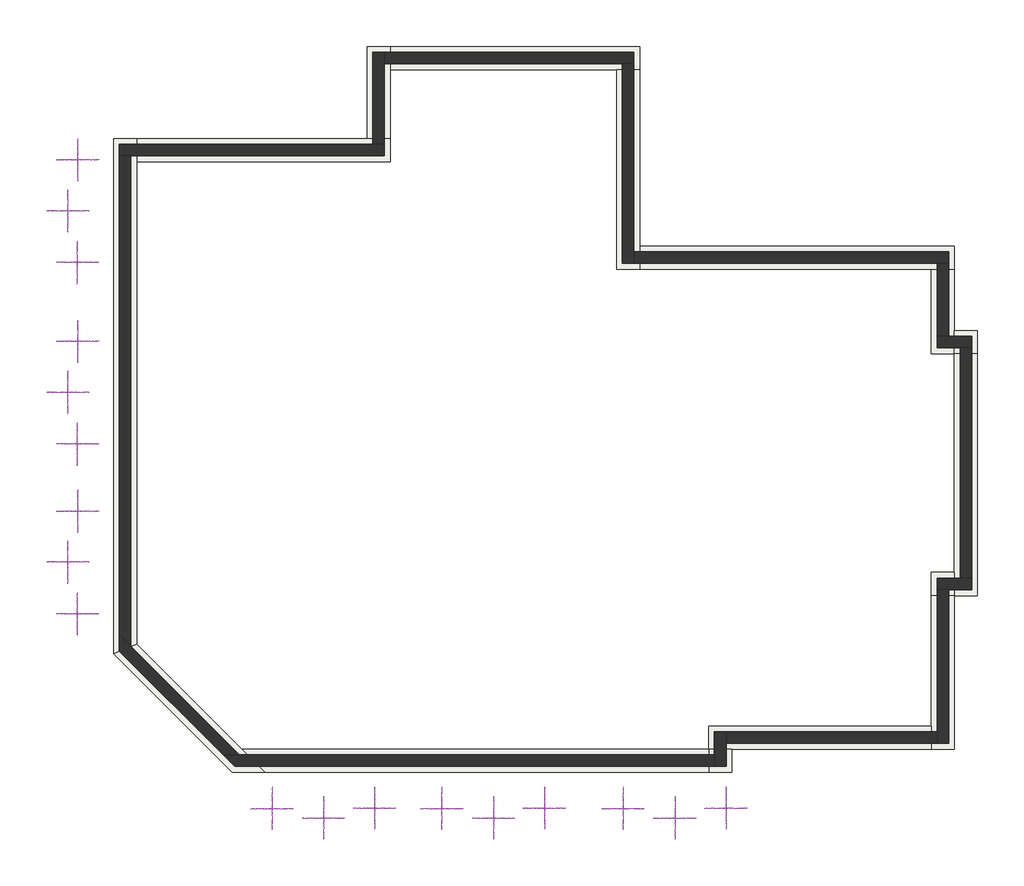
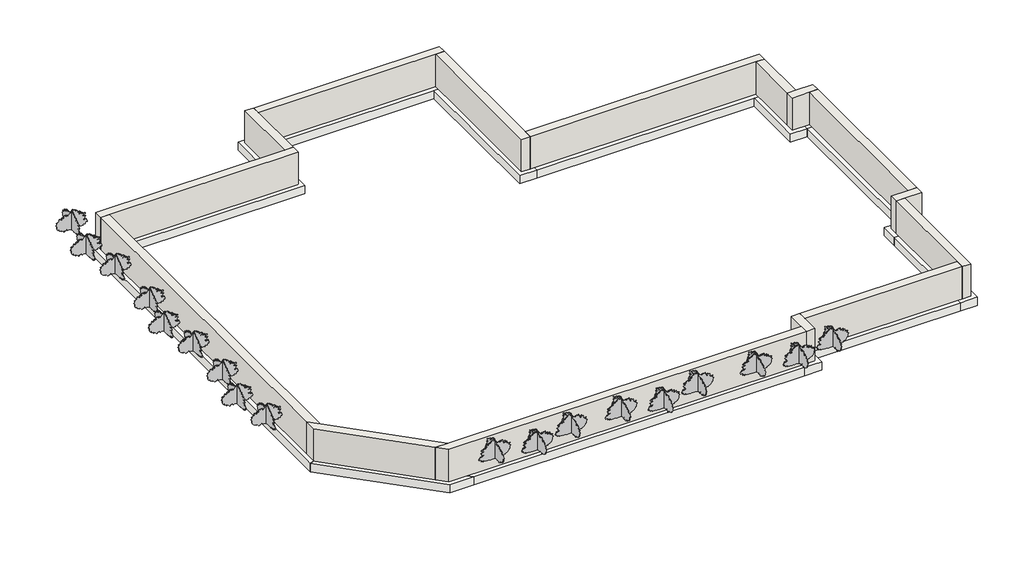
# One storey: 18 geographic elements, 15 footings, 15 walls.
"""IFC4 building model written with IfcOpenShell, lengths in millimetres."""

import ifcopenshell
import ifcopenshell.guid

model = None  # the IFC model being written
_history = None  # IfcOwnerHistory: only IFC2X3 demands one
_inside = {}  # id of a spatial element -> (the spatial element, [elements in it])
_under = {}  # id of a project, library or spatial element -> (it, [spatial elements below it])
_declared = {}  # id of a project -> (the project, [libraries it declares])
_typed = {}  # id of a type object -> (the type object, [elements of that type])
_made_of = {}  # id of a material, layer set ... -> (it, [elements and type objects made of it])


def new_model(schema):
    """Start an empty IFC model of exactly this schema.

    Asked for "IFC4X3", IfcOpenShell would pick the latest addendum, in which some entities
    have other attributes; the version numbers below select the first issue.
    IFC2X3 requires an IfcOwnerHistory on every rooted entity: one is made here for all.
    """
    global model, _history
    if schema == "IFC4X3":
        model = ifcopenshell.file(schema_version=(4, 3, 0, 0))
    else:
        model = ifcopenshell.file(schema=schema)
    _inside.clear()
    _under.clear()
    _declared.clear()
    _typed.clear()
    _made_of.clear()
    _history = None
    if model.schema == "IFC2X3":
        org = make("IfcOrganization", Name="unknown")
        user = make(
            "IfcPersonAndOrganization",
            ThePerson=make("IfcPerson", FamilyName="unknown"),
            TheOrganization=org,
        )
        app = make(
            "IfcApplication",
            ApplicationDeveloper=org,
            Version="unknown",
            ApplicationFullName="unknown",
            ApplicationIdentifier="unknown",
        )
        _history = make(
            "IfcOwnerHistory",
            OwningUser=user,
            OwningApplication=app,
            ChangeAction="ADDED",
            CreationDate=0,
        )
    return model


def make(cls, **values):
    """One entity of the class cls with the attributes given. An attribute that is None is left unset."""
    return model.create_entity(
        cls, **{name: value for name, value in values.items() if value is not None}
    )


def rooted(cls, **values):
    """An entity with a GlobalId (a new one), such as an element, a storey or a relation."""
    return make(cls, GlobalId=ifcopenshell.guid.new(), OwnerHistory=_history, **values)


def si_unit(unit_type, name, prefix=None):
    """IfcSIUnit, for example si_unit("LENGTHUNIT", "METRE", prefix="MILLI")."""
    return make("IfcSIUnit", UnitType=unit_type, Prefix=prefix, Name=name)


def assignment(units):
    """IfcUnitAssignment: the units of a project."""
    return None if units is None else make("IfcUnitAssignment", Units=units)


def point(xyz):
    """IfcCartesianPoint."""
    return None if xyz is None else make("IfcCartesianPoint", Coordinates=xyz)


def direction(xyz):
    """IfcDirection."""
    return None if xyz is None else make("IfcDirection", DirectionRatios=xyz)


def frame(location, z_axis=None, x_axis=None):
    """IfcAxis2Placement3D, a coordinate frame: its origin and axes. An axis left out is left unset."""
    return make(
        "IfcAxis2Placement3D",
        Location=point(location),
        Axis=direction(z_axis),
        RefDirection=direction(x_axis),
    )


def origin():
    """The frame at (0, 0, 0) with its axes left unset."""
    return frame((0.0, 0.0, 0.0))


def place(relative_to, where):
    """IfcLocalPlacement: puts the frame where relative to a parent placement (None: the world)."""
    return make(
        "IfcLocalPlacement", PlacementRelTo=relative_to, RelativePlacement=where
    )


def context(
    kind, dimensions, precision=None, world=None, true_north=None, identifier=None
):
    """IfcGeometricRepresentationContext, for example the 3D "Model" context."""
    return make(
        "IfcGeometricRepresentationContext",
        ContextIdentifier=identifier,
        ContextType=kind,
        CoordinateSpaceDimension=dimensions,
        Precision=precision,
        WorldCoordinateSystem=world,
        TrueNorth=true_north,
    )


def project(units=None, contexts=None):
    """IfcProject with its units and contexts."""
    return rooted(
        "IfcProject",
        Name="project",
        RepresentationContexts=contexts,
        UnitsInContext=assignment(units),
    )


def spatial(cls, under=None, at=None, **own):
    """A site, building, storey or space (cls), placed at a placement, below another one or the project."""
    s = rooted(cls, ObjectPlacement=at, **own)
    if under is not None:
        _under.setdefault(under.id(), (under, []))[1].append(s)
    return s


def polyline(points):
    """IfcPolyline through the points."""
    return make("IfcPolyline", Points=[point(p) for p in points])


def outline(outer, holes=None, kind="AREA"):
    """IfcArbitraryClosedProfileDef: a profile drawn as a closed curve; with holes, ...WithVoids."""
    if holes is None:
        return make("IfcArbitraryClosedProfileDef", ProfileType=kind, OuterCurve=outer)
    return make(
        "IfcArbitraryProfileDefWithVoids",
        ProfileType=kind,
        OuterCurve=outer,
        InnerCurves=holes,
    )


def extrude(swept, where, along, depth):
    """IfcExtrudedAreaSolid: the profile swept, set in the frame where, extruded along a direction by depth."""
    return make(
        "IfcExtrudedAreaSolid",
        SweptArea=swept,
        Position=where,
        ExtrudedDirection=direction(along),
        Depth=depth,
    )


def faces_of(points, faces, orient=None, outer=None):
    """IfcFace entities. A face is a list of loops; a loop is a list of indices into points, from 0.

    orient and outer hold one flag for each loop. By default every Orientation is true, the
    first loop of a face is its IfcFaceOuterBound and the others are IfcFaceBound.
    """
    made = []
    for i, loops in enumerate(faces):
        bounds = []
        for j, loop in enumerate(loops):
            is_outer = j == 0 if outer is None else outer[i][j]
            bounds.append(
                make(
                    "IfcFaceOuterBound" if is_outer else "IfcFaceBound",
                    Bound=make("IfcPolyLoop", Polygon=[points[k] for k in loop]),
                    Orientation=True if orient is None else orient[i][j],
                )
            )
        made.append(make("IfcFace", Bounds=bounds))
    return made


def faceted_brep(points, faces, orient=None, outer=None, voids=None):
    """IfcFacetedBrep: a solid bounded by flat faces; with voids (closed shells), ...WithVoids."""
    shared = [point(p) for p in points]
    hull = make("IfcClosedShell", CfsFaces=faces_of(shared, faces, orient, outer))
    if voids is None:
        return make("IfcFacetedBrep", Outer=hull)
    return make(
        "IfcFacetedBrepWithVoids",
        Outer=hull,
        Voids=[
            make(cls, CfsFaces=faces_of(shared, fs, o, b)) for cls, fs, o, b in voids
        ],
    )


def shape(context_of_items, identifier, shape_type, items):
    """IfcShapeRepresentation: the items that make up one representation, for example the "Body"."""
    return make(
        "IfcShapeRepresentation",
        ContextOfItems=context_of_items,
        RepresentationIdentifier=identifier,
        RepresentationType=shape_type,
        Items=items,
    )


def source(mapping_origin, context_of_items, identifier, shape_type, items):
    """IfcRepresentationMap: a shape defined once, which mapped items show again and again."""
    return make(
        "IfcRepresentationMap",
        MappingOrigin=mapping_origin,
        MappedRepresentation=shape(context_of_items, identifier, shape_type, items),
    )


def transform(
    local_origin,
    x_axis=None,
    y_axis=None,
    z_axis=None,
    scale=None,
    scale2=None,
    scale3=None,
    uniform=True,
):
    """IfcCartesianTransformationOperator3D, or its non-uniform kind. x_axis, y_axis, z_axis: its Axis1, 2, 3."""
    if uniform:
        return make(
            "IfcCartesianTransformationOperator3D",
            Axis1=direction(x_axis),
            Axis2=direction(y_axis),
            LocalOrigin=point(local_origin),
            Scale=scale,
            Axis3=direction(z_axis),
        )
    return make(
        "IfcCartesianTransformationOperator3DnonUniform",
        Axis1=direction(x_axis),
        Axis2=direction(y_axis),
        LocalOrigin=point(local_origin),
        Scale=scale,
        Axis3=direction(z_axis),
        Scale2=scale2,
        Scale3=scale3,
    )


def mapped(mapping_source, mapping_target):
    """IfcMappedItem: shows the shape of a source again, moved by a transform."""
    return make(
        "IfcMappedItem", MappingSource=mapping_source, MappingTarget=mapping_target
    )


def made_of(thing, what):
    """Note that an element or type object is made of a material, layer set ...; save() writes the relation."""
    if what is not None:
        _made_of.setdefault(what.id(), (what, []))[1].append(thing)
    return thing


def element(
    cls,
    number,
    at=None,
    inside=None,
    cuts=None,
    type_object=None,
    material=None,
    context=None,
    identifier="Body",
    shape_type=None,
    held_by="IfcProductDefinitionShape",
    body=None,
    shapes=None,
    **own,
):
    """One element of the class cls, such as IfcWall. Its Tag is "e" and its number.

    at: its placement. inside: the storey or other place that contains it. cuts: it is an
    opening in that element (IfcRelVoidsElement). A single representation is given by context,
    identifier, shape_type and body (its items); several are given by shapes. held_by: the class
    of the entity that holds the representations. save() writes the other relations.
    """
    e = rooted(cls, Tag="e%d" % number, ObjectPlacement=at, **own)
    if body is not None:
        shapes = [shape(context, identifier, shape_type, body)]
    if shapes is not None:
        e.Representation = make(held_by, Representations=shapes)
    if inside is not None:
        _inside.setdefault(inside.id(), (inside, []))[1].append(e)
    if cuts is not None:
        rooted(
            "IfcRelVoidsElement", RelatingBuildingElement=cuts, RelatedOpeningElement=e
        )
    if type_object is not None:
        _typed.setdefault(type_object.id(), (type_object, []))[1].append(e)
    return made_of(e, material)


def aggregate(whole, parts):
    """IfcRelAggregates: a whole, such as a stair, and the parts it consists of."""
    return rooted("IfcRelAggregates", RelatingObject=whole, RelatedObjects=parts)


def save(model, path):
    """Write the relations noted so far, then the file.

    IfcRelAggregates (storeys below a building ...), IfcRelContainedInSpatialStructure (elements
    in a storey), IfcRelDefinesByType, IfcRelAssociatesMaterial and IfcRelDeclares: one each for
    every whole, place, type object, material and project.
    """
    for whole, parts in _under.values():
        aggregate(whole, parts)
    for where, things in _inside.values():
        rooted(
            "IfcRelContainedInSpatialStructure",
            RelatedElements=things,
            RelatingStructure=where,
        )
    for kind, things in _typed.values():
        rooted("IfcRelDefinesByType", RelatedObjects=things, RelatingType=kind)
    for what, things in _made_of.values():
        rooted("IfcRelAssociatesMaterial", RelatedObjects=things, RelatingMaterial=what)
    for by, libraries in _declared.values():
        rooted("IfcRelDeclares", RelatingContext=by, RelatedDefinitions=libraries)
    model.write(path)


def shrub_shrub_abd32c67(model_context):
    return source(origin(), model_context, "Body", "SweptSolid", [
        extrude(outline(polyline([(29.523633, 70.2480967), (29.523633, 95.6480967), (0.0, 125.1717298), (25.4855725, 125.1717298), (43.4460847, 143.132242), (72.2685398, 171.9546971), (36.4938496, 179.2385979), (29.523633, 186.2088145), (29.523633, 234.545531), (0.0, 234.545531), (0.0, 259.945531), (29.523633, 259.945531), (29.523633, 285.345531), (65.4029375, 321.2248355), (47.9654462, 362.7153449), (73.8506069, 362.7153449), (96.7583521, 435.3904796), (114.7188644, 453.3509919), (140.1188644, 453.3509919), (140.1188644, 478.7509919), (158.0793766, 496.7115041), (202.6908834, 496.7115041), (202.6908834, 522.1115041), (232.020277, 522.1115041), (283.1303552, 522.1115041), (319.0513797, 558.0325286), (380.3724042, 496.7115041), (416.2934287, 532.6325286), (416.2934287, 460.7904796), (452.9569264, 424.1269819), (470.9174387, 442.0874941), (517.7495031, 422.4050721), (486.2141697, 390.8697386), (486.2141697, 314.6697386), (511.6141697, 314.6697386), (511.6141697, 340.0697386), (488.9685634, 362.7153449), (514.3685634, 362.7153449), (547.1116737, 362.7153449), (547.1116737, 329.9722346), (527.5646416, 310.4252025), (527.5646416, 270.9260077), (552.9646416, 270.9260077), (566.8612711, 284.8226372), (580.7579006, 270.9260077), (602.2735254, 270.9260077), (608.6235254, 270.9260077), (608.6235254, 243.0603829), (602.2735254, 243.0603829), (585.7757415, 233.5353829), (585.7757415, 220.8353829), (597.9116737, 208.6994507), (608.6235254, 190.1459792), (597.9116737, 179.4341274), (559.8116737, 179.4341274), (573.2820579, 165.9637433), (597.9116737, 141.3341274), (602.4018017, 136.8439994), (589.7018017, 136.8439994), (555.3215456, 136.8439994), (579.4741793, 85.0485094), (608.6235254, 65.6156119), (640.0544219, 34.1847155), (682.5762926, 16.3137672), (682.5762926, -53.5362328), (695.9512334, -21.712096), (721.3512334, -21.712096), (721.3512334, -72.512096), (711.2, -72.512096), (682.5762926, -72.512096), (693.3107964, -95.5323138), (706.7289262, -124.3075861), (687.6789262, -124.3075861), (670.4137629, -132.358464), (670.4137629, -170.458464), (646.9977306, -160.6172529), (630.7398251, -176.8751585), (644.2102093, -190.3455427), (620.9743269, -200.1110409), (634.444711, -213.5814251), (625.4644549, -222.5616812), (597.9116737, -222.5616812), (585.0533024, -222.5616812), (585.0533024, -285.5809964), (597.7533024, -285.5809964), (597.7533024, -291.9309964), (571.2428023, -318.4414965), (550.4137209, -297.6124152), (523.4729526, -270.6716468), (492.0016111, -270.6716468), (502.7725107, -304.8424729), (522.9780869, -325.0480492), (535.6780869, -325.0480492), (550.1571683, -339.5271305), (536.6867841, -352.9975147), (517.9513395, -352.9975147), (504.9182897, -325.0480492), (480.9303113, -325.0480492), (480.9303113, -337.7480492), (493.231825, -367.0180895), (504.6856977, -403.3556569), (495.7054416, -412.335913), (480.9303113, -406.1262711), (468.2303113, -406.1262711), (459.0486114, -415.307971), (464.583001, -478.5663343), (459.0486114, -491.7347794), (435.7840523, -491.7347794), (431.2939242, -487.2446513), (396.0185711, -411.5964125), (391.528443, -407.1062844), (362.00481, -477.3543812), (354.3688949, -501.5794261), (354.3688949, -514.2794261), (318.4478704, -478.3584016), (309.4676143, -469.3781455), (286.0515821, -479.2193565), (263.6009418, -456.7687162), (263.6009418, -406.1262711), (221.9214806, -447.8057322), (221.9214806, -473.2057322), (240.4505278, -491.7347794), (221.9214806, -491.7347794), (211.1793149, -502.4769452), (211.1793149, -508.8269452), (233.6299552, -531.2775855), (207.2789362, -531.2775855), (185.8236797, -552.732842), (139.1670955, -574.4891645), (99.2675512, -557.7203186), (125.7102844, -531.2775855), (89.7892599, -495.356561), (51.6892599, -495.356561), (51.6892599, -469.956561), (69.5815854, -452.0642354), (55.101596, -406.1262711), (29.523633, -406.1262711), (22.5818551, -428.1491562), (22.5818551, -339.2491562), (29.523633, -332.3073783), (29.523633, -306.9073783), (13.4734695, -290.8572148), (13.4734695, -252.7572148), (27.1197299, -220.2875043), (8.3343482, -180.0021232), (8.3343482, -154.6021232), (8.3343482, -116.5021232), (0.0, 0.0), (29.523633, 70.2480967)])), frame((0.0, -0.396875, 0.0), z_axis=(0.0, 1.0, 0.0), x_axis=(0.0, 0.0, 1.0)), (0.0, 0.0, 1.0), 0.79375),
        extrude(outline(polyline([(-70.2480967, 29.523633), (-95.6480967, 29.523633), (-125.1717298, 0.0), (-125.1717298, 25.4855725), (-143.132242, 43.4460847), (-171.9546971, 72.2685398), (-179.2385979, 36.4938496), (-186.2088145, 29.523633), (-234.545531, 29.523633), (-234.545531, 0.0), (-259.945531, 0.0), (-259.945531, 29.523633), (-285.345531, 29.523633), (-321.2248355, 65.4029375), (-362.7153449, 47.9654462), (-362.7153449, 73.8506069), (-435.3904796, 96.7583521), (-453.3509919, 114.7188644), (-453.3509919, 140.1188644), (-478.7509919, 140.1188644), (-496.7115041, 158.0793766), (-496.7115041, 202.6908834), (-522.1115041, 202.6908834), (-522.1115041, 232.020277), (-522.1115041, 283.1303552), (-558.0325286, 319.0513797), (-496.7115041, 380.3724042), (-532.6325286, 416.2934287), (-460.7904796, 416.2934287), (-424.1269819, 452.9569264), (-442.0874941, 470.9174387), (-422.4050721, 517.7495031), (-390.8697386, 486.2141697), (-314.6697386, 486.2141697), (-314.6697386, 511.6141697), (-340.0697386, 511.6141697), (-362.7153449, 488.9685634), (-362.7153449, 514.3685634), (-362.7153449, 547.1116737), (-329.9722346, 547.1116737), (-310.4252025, 527.5646416), (-270.9260077, 527.5646416), (-270.9260077, 552.9646416), (-284.8226372, 566.8612711), (-270.9260077, 580.7579006), (-270.9260077, 602.2735254), (-270.9260077, 608.6235254), (-243.0603829, 608.6235254), (-243.0603829, 602.2735254), (-233.5353829, 585.7757415), (-220.8353829, 585.7757415), (-208.6994507, 597.9116737), (-190.1459792, 608.6235254), (-179.4341274, 597.9116737), (-179.4341274, 559.8116737), (-165.9637433, 573.2820579), (-141.3341274, 597.9116737), (-136.8439994, 602.4018017), (-136.8439994, 589.7018017), (-136.8439994, 555.3215456), (-85.0485094, 579.4741793), (-65.6156119, 608.6235254), (-34.1847155, 640.0544219), (-16.3137672, 682.5762926), (53.5362328, 682.5762926), (21.712096, 695.9512334), (21.712096, 721.3512334), (72.512096, 721.3512334), (72.512096, 711.2), (72.512096, 682.5762926), (95.5323138, 693.3107964), (124.3075861, 706.7289262), (124.3075861, 687.6789262), (132.358464, 670.4137629), (170.458464, 670.4137629), (160.6172529, 646.9977306), (176.8751585, 630.7398251), (190.3455427, 644.2102093), (200.1110409, 620.9743269), (213.5814251, 634.444711), (222.5616812, 625.4644549), (222.5616812, 597.9116737), (222.5616812, 585.0533024), (285.5809964, 585.0533024), (285.5809964, 597.7533024), (291.9309964, 597.7533024), (318.4414965, 571.2428023), (297.6124152, 550.4137209), (270.6716468, 523.4729526), (270.6716468, 492.0016111), (304.8424729, 502.7725107), (325.0480492, 522.9780869), (325.0480492, 535.6780869), (339.5271305, 550.1571683), (352.9975147, 536.6867841), (352.9975147, 517.9513395), (325.0480492, 504.9182897), (325.0480492, 480.9303113), (337.7480492, 480.9303113), (367.0180895, 493.231825), (403.3556569, 504.6856977), (412.335913, 495.7054416), (406.1262711, 480.9303113), (406.1262711, 468.2303113), (415.307971, 459.0486114), (478.5663343, 464.583001), (491.7347794, 459.0486114), (491.7347794, 435.7840523), (487.2446513, 431.2939242), (411.5964125, 396.0185711), (407.1062844, 391.528443), (477.3543812, 362.00481), (501.5794261, 354.3688949), (514.2794261, 354.3688949), (478.3584016, 318.4478704), (469.3781455, 309.4676143), (479.2193565, 286.0515821), (456.7687162, 263.6009418), (406.1262711, 263.6009418), (447.8057322, 221.9214806), (473.2057322, 221.9214806), (491.7347794, 240.4505278), (491.7347794, 221.9214806), (502.4769452, 211.1793149), (508.8269452, 211.1793149), (531.2775855, 233.6299552), (531.2775855, 207.2789362), (552.732842, 185.8236797), (574.4891645, 139.1670955), (557.7203186, 99.2675512), (531.2775855, 125.7102844), (495.356561, 89.7892599), (495.356561, 51.6892599), (469.956561, 51.6892599), (452.0642354, 69.5815854), (406.1262711, 55.101596), (406.1262711, 29.523633), (428.1491562, 22.5818551), (339.2491562, 22.5818551), (332.3073783, 29.523633), (306.9073783, 29.523633), (290.8572148, 13.4734695), (252.7572148, 13.4734695), (220.2875043, 27.1197299), (180.0021232, 8.3343482), (154.6021232, 8.3343482), (116.5021232, 8.3343482), (0.0, 0.0), (-70.2480967, 29.523633)])), frame((-0.396875, 0.0, 0.0), z_axis=(1.0, 0.0, 0.0), x_axis=(0.0, 1.0, 0.0)), (0.0, 0.0, 1.0), 0.79375),
    ])


def shrub_shrub_3939bb0c(model_context):
    return source(origin(), model_context, "Body", "SweptSolid", [
        extrude(outline(polyline([(29.523633, 70.2480967), (29.523633, 95.6480967), (0.0, 125.1717298), (25.4855725, 125.1717298), (43.4460847, 143.132242), (72.2685398, 171.9546971), (36.4938496, 179.2385979), (29.523633, 186.2088145), (29.523633, 234.545531), (0.0, 234.545531), (0.0, 259.945531), (29.523633, 259.945531), (29.523633, 285.345531), (65.4029375, 321.2248355), (47.9654462, 362.7153449), (73.8506069, 362.7153449), (96.7583521, 435.3904796), (114.7188644, 453.3509919), (140.1188644, 453.3509919), (140.1188644, 478.7509919), (158.0793766, 496.7115041), (202.6908834, 496.7115041), (202.6908834, 522.1115041), (232.020277, 522.1115041), (283.1303552, 522.1115041), (319.0513797, 558.0325286), (380.3724042, 496.7115041), (416.2934287, 532.6325286), (416.2934287, 460.7904796), (452.9569264, 424.1269819), (470.9174387, 442.0874941), (517.7495031, 422.4050721), (486.2141697, 390.8697386), (486.2141697, 314.6697386), (511.6141697, 314.6697386), (511.6141697, 340.0697386), (488.9685634, 362.7153449), (514.3685634, 362.7153449), (547.1116737, 362.7153449), (547.1116737, 329.9722346), (527.5646416, 310.4252025), (527.5646416, 270.9260077), (552.9646416, 270.9260077), (566.8612711, 284.8226372), (580.7579006, 270.9260077), (602.2735254, 270.9260077), (608.6235254, 270.9260077), (608.6235254, 243.0603829), (602.2735254, 243.0603829), (585.7757415, 233.5353829), (585.7757415, 220.8353829), (597.9116737, 208.6994507), (608.6235254, 190.1459792), (597.9116737, 179.4341274), (559.8116737, 179.4341274), (573.2820579, 165.9637433), (597.9116737, 141.3341274), (602.4018017, 136.8439994), (589.7018017, 136.8439994), (555.3215456, 136.8439994), (579.4741793, 85.0485094), (608.6235254, 65.6156119), (640.0544219, 34.1847155), (682.5762926, 16.3137672), (682.5762926, -53.5362328), (695.9512334, -21.712096), (721.3512334, -21.712096), (721.3512334, -72.512096), (711.2, -72.512096), (682.5762926, -72.512096), (693.3107964, -95.5323138), (706.7289262, -124.3075861), (687.6789262, -124.3075861), (670.4137629, -132.358464), (670.4137629, -170.458464), (646.9977306, -160.6172529), (630.7398251, -176.8751585), (644.2102093, -190.3455427), (620.9743269, -200.1110409), (634.444711, -213.5814251), (625.4644549, -222.5616812), (597.9116737, -222.5616812), (585.0533024, -222.5616812), (585.0533024, -285.5809964), (597.7533024, -285.5809964), (597.7533024, -291.9309964), (571.2428023, -318.4414965), (550.4137209, -297.6124152), (523.4729526, -270.6716468), (492.0016111, -270.6716468), (502.7725107, -304.8424729), (522.9780869, -325.0480492), (535.6780869, -325.0480492), (550.1571683, -339.5271305), (536.6867841, -352.9975147), (517.9513395, -352.9975147), (504.9182897, -325.0480492), (480.9303113, -325.0480492), (480.9303113, -337.7480492), (493.231825, -367.0180895), (504.6856977, -403.3556569), (495.7054416, -412.335913), (480.9303113, -406.1262711), (468.2303113, -406.1262711), (459.0486114, -415.307971), (464.583001, -478.5663343), (459.0486114, -491.7347794), (435.7840523, -491.7347794), (431.2939242, -487.2446513), (396.0185711, -411.5964125), (391.528443, -407.1062844), (362.00481, -477.3543812), (354.3688949, -501.5794261), (354.3688949, -514.2794261), (318.4478704, -478.3584016), (309.4676143, -469.3781455), (286.0515821, -479.2193565), (263.6009418, -456.7687162), (263.6009418, -406.1262711), (221.9214806, -447.8057322), (221.9214806, -473.2057322), (240.4505278, -491.7347794), (221.9214806, -491.7347794), (211.1793149, -502.4769452), (211.1793149, -508.8269452), (233.6299552, -531.2775855), (207.2789362, -531.2775855), (185.8236797, -552.732842), (139.1670955, -574.4891645), (99.2675512, -557.7203186), (125.7102844, -531.2775855), (89.7892599, -495.356561), (51.6892599, -495.356561), (51.6892599, -469.956561), (69.5815854, -452.0642354), (55.101596, -406.1262711), (29.523633, -406.1262711), (22.5818551, -428.1491562), (22.5818551, -339.2491562), (29.523633, -332.3073783), (29.523633, -306.9073783), (13.4734695, -290.8572148), (13.4734695, -252.7572148), (27.1197299, -220.2875043), (8.3343482, -180.0021232), (8.3343482, -154.6021232), (8.3343482, -116.5021232), (0.0, 0.0), (29.523633, 70.2480967)])), frame((0.0, -0.396875, 0.0), z_axis=(0.0, 1.0, 0.0), x_axis=(0.0, 0.0, 1.0)), (0.0, 0.0, 1.0), 0.79375),
        extrude(outline(polyline([(70.2480967, 29.523633), (0.0, 0.0), (-116.5021232, 8.3343482), (-154.6021232, 8.3343482), (-180.0021232, 8.3343482), (-220.2875043, 27.1197299), (-252.7572148, 13.4734695), (-290.8572148, 13.4734695), (-306.9073783, 29.523633), (-332.3073783, 29.523633), (-339.2491562, 22.5818551), (-428.1491562, 22.5818551), (-406.1262711, 29.523633), (-406.1262711, 55.101596), (-452.0642354, 69.5815854), (-469.956561, 51.6892599), (-495.356561, 51.6892599), (-495.356561, 89.7892599), (-531.2775855, 125.7102844), (-557.7203186, 99.2675512), (-574.4891645, 139.1670955), (-552.732842, 185.8236797), (-531.2775855, 207.2789362), (-531.2775855, 233.6299552), (-508.8269452, 211.1793149), (-502.4769452, 211.1793149), (-491.7347794, 221.9214806), (-491.7347794, 240.4505278), (-473.2057322, 221.9214806), (-447.8057322, 221.9214806), (-406.1262711, 263.6009418), (-456.7687162, 263.6009418), (-479.2193565, 286.0515821), (-469.3781455, 309.4676143), (-478.3584016, 318.4478704), (-514.2794261, 354.3688949), (-501.5794261, 354.3688949), (-477.3543812, 362.00481), (-407.1062844, 391.528443), (-411.5964125, 396.0185711), (-487.2446513, 431.2939242), (-491.7347794, 435.7840523), (-491.7347794, 459.0486114), (-478.5663343, 464.583001), (-415.307971, 459.0486114), (-406.1262711, 468.2303113), (-406.1262711, 480.9303113), (-412.335913, 495.7054416), (-403.3556569, 504.6856977), (-367.0180895, 493.231825), (-337.7480492, 480.9303113), (-325.0480492, 480.9303113), (-325.0480492, 504.9182897), (-352.9975147, 517.9513395), (-352.9975147, 536.6867841), (-339.5271305, 550.1571683), (-325.0480492, 535.6780869), (-325.0480492, 522.9780869), (-304.8424729, 502.7725107), (-270.6716468, 492.0016111), (-270.6716468, 523.4729526), (-297.6124152, 550.4137209), (-318.4414965, 571.2428023), (-291.9309964, 597.7533024), (-285.5809964, 597.7533024), (-285.5809964, 585.0533024), (-222.5616812, 585.0533024), (-222.5616812, 597.9116737), (-222.5616812, 625.4644549), (-213.5814251, 634.444711), (-200.1110409, 620.9743269), (-190.3455427, 644.2102093), (-176.8751585, 630.7398251), (-160.6172529, 646.9977306), (-170.458464, 670.4137629), (-132.358464, 670.4137629), (-124.3075861, 687.6789262), (-124.3075861, 706.7289262), (-95.5323138, 693.3107964), (-72.512096, 682.5762926), (-72.512096, 711.2), (-72.512096, 721.3512334), (-21.712096, 721.3512334), (-21.712096, 695.9512334), (-53.5362328, 682.5762926), (16.3137672, 682.5762926), (34.1847155, 640.0544219), (65.6156119, 608.6235254), (85.0485094, 579.4741793), (136.8439994, 555.3215456), (136.8439994, 589.7018017), (136.8439994, 602.4018017), (141.3341274, 597.9116737), (165.9637433, 573.2820579), (179.4341274, 559.8116737), (179.4341274, 597.9116737), (190.1459792, 608.6235254), (208.6994507, 597.9116737), (220.8353829, 585.7757415), (233.5353829, 585.7757415), (243.0603829, 602.2735254), (243.0603829, 608.6235254), (270.9260077, 608.6235254), (270.9260077, 602.2735254), (270.9260077, 580.7579006), (284.8226372, 566.8612711), (270.9260077, 552.9646416), (270.9260077, 527.5646416), (310.4252025, 527.5646416), (329.9722346, 547.1116737), (362.7153449, 547.1116737), (362.7153449, 514.3685634), (362.7153449, 488.9685634), (340.0697386, 511.6141697), (314.6697386, 511.6141697), (314.6697386, 486.2141697), (390.8697386, 486.2141697), (422.4050721, 517.7495031), (442.0874941, 470.9174387), (424.1269819, 452.9569264), (460.7904796, 416.2934287), (532.6325286, 416.2934287), (496.7115041, 380.3724042), (558.0325286, 319.0513797), (522.1115041, 283.1303552), (522.1115041, 232.020277), (522.1115041, 202.6908834), (496.7115041, 202.6908834), (496.7115041, 158.0793766), (478.7509919, 140.1188644), (453.3509919, 140.1188644), (453.3509919, 114.7188644), (435.3904796, 96.7583521), (362.7153449, 73.8506069), (362.7153449, 47.9654462), (321.2248355, 65.4029375), (285.345531, 29.523633), (259.945531, 29.523633), (259.945531, 0.0), (234.545531, 0.0), (234.545531, 29.523633), (186.2088145, 29.523633), (179.2385979, 36.4938496), (171.9546971, 72.2685398), (143.132242, 43.4460847), (125.1717298, 25.4855725), (125.1717298, 0.0), (95.6480967, 29.523633), (70.2480967, 29.523633)])), frame((-0.396875, 0.0, 0.0), z_axis=(1.0, 0.0, 0.0), x_axis=(0.0, 1.0, 0.0)), (0.0, 0.0, 1.0), 0.79375),
    ])


model = new_model("IFC4")

# Units and contexts
model_context = context("Model", 3, world=origin())
ifc_project = project(units=[si_unit("LENGTHUNIT", "METRE", prefix="MILLI")], contexts=[model_context])

# Site, building, storey
site = spatial("IfcSite", under=ifc_project)
building = spatial("IfcBuilding", under=site)
storey = spatial("IfcBuildingStorey", under=building, Name="T.O. FOOTING", Elevation=29260.8)

# Footings
placement = place(None, origin())
element("IfcFooting", 1, ObjectType="Retaining Footing - 24\"", at=placement, inside=storey, context=model_context, shape_type="Brep", body=[
    faceted_brep([(-12977.4568123, -6410.1989595, 29260.8), (-13587.0568123, -5800.5989595, 29260.8), (-16367.235253, -3020.4205188, 29260.8), (-16976.835253, -3272.9251064, 29260.8), (-13839.5613999, -6410.1989595, 29260.8), (-13839.5613999, -6410.1989595, 28956.0), (-16976.835253, -3272.9251064, 28956.0), (-12977.4568123, -6410.1989595, 28956.0), (-16367.235253, -3020.4205188, 28956.0), (-13587.0568123, -5800.5989595, 28956.0)], [[[0, 1, 2, 3, 4]], [[5, 4, 3, 6]], [[7, 5, 6, 8, 9]], [[0, 7, 9, 8, 2, 1]], [[0, 4, 5, 7]], [[3, 2, 8, 6]]]),
])
element("IfcFooting", 2, ObjectType="Retaining Footing - 24\"", at=placement, inside=storey, context=model_context, shape_type="Brep", body=[
    faceted_brep([(-16976.835253, 10353.8010405, 29260.8), (-16976.835253, -3272.9251064, 29260.8), (-16367.235253, -3020.4205188, 29260.8), (-16367.235253, 9744.2010405, 29260.8), (-16367.235253, 10353.8010405, 29260.8), (-16976.835253, 10353.8010405, 28956.0), (-16976.835253, -3272.9251064, 28956.0), (-16367.235253, 10353.8010405, 28956.0), (-16367.235253, 9744.2010405, 28956.0), (-16367.235253, -3020.4205188, 28956.0)], [[[0, 1, 2, 3, 4]], [[1, 0, 5, 6]], [[6, 5, 7, 8, 9]], [[7, 4, 3, 2, 9, 8]], [[0, 4, 7, 5]], [[2, 1, 6, 9]]]),
])
element("IfcFooting", 3, ObjectType="Retaining Footing - 24\"", at=placement, inside=storey, context=model_context, shape_type="Brep", body=[
    faceted_brep([(-9661.635253, 9744.2010405, 29260.8), (-9661.635253, 10353.8010405, 29260.8), (-10271.235253, 10353.8010405, 29260.8), (-16367.235253, 10353.8010405, 29260.8), (-16367.235253, 9744.2010405, 29260.8), (-9661.635253, 10353.8010405, 28956.0), (-10271.235253, 10353.8010405, 28956.0), (-16367.235253, 10353.8010405, 28956.0), (-9661.635253, 9744.2010405, 28956.0), (-16367.235253, 9744.2010405, 28956.0)], [[[0, 1, 2, 3, 4]], [[1, 5, 6, 7, 3, 2]], [[5, 8, 9, 7, 6]], [[8, 0, 4, 9]], [[1, 0, 8, 5]], [[4, 3, 7, 9]]]),
])
element("IfcFooting", 4, ObjectType="Retaining Footing - 24\"", at=placement, inside=storey, context=model_context, shape_type="Brep", body=[
    faceted_brep([(-9661.635253, 12792.2010405, 29260.8), (-10271.235253, 12792.2010405, 29260.8), (-10271.235253, 10353.8010405, 29260.8), (-9661.635253, 10353.8010405, 29260.8), (-9661.635253, 12182.6010405, 29260.8), (-10271.235253, 12792.2010405, 28956.0), (-10271.235253, 10353.8010405, 28956.0), (-9661.635253, 12792.2010405, 28956.0), (-9661.635253, 12182.6010405, 28956.0), (-9661.635253, 10353.8010405, 28956.0)], [[[0, 1, 2, 3, 4]], [[1, 5, 6, 2]], [[5, 7, 8, 9, 6]], [[7, 0, 4, 3, 9, 8]], [[1, 0, 7, 5]], [[3, 2, 6, 9]]]),
])
element("IfcFooting", 5, ObjectType="Retaining Footing - 24\"", at=placement, inside=storey, context=model_context, shape_type="Brep", body=[
    faceted_brep([(-3057.635253, 12182.6010405, 29260.8), (-3057.635253, 12792.2010405, 29260.8), (-9661.635253, 12792.2010405, 29260.8), (-9661.635253, 12182.6010405, 29260.8), (-3667.235253, 12182.6010405, 29260.8), (-3057.635253, 12792.2010405, 28956.0), (-9661.635253, 12792.2010405, 28956.0), (-3057.635253, 12182.6010405, 28956.0), (-3667.235253, 12182.6010405, 28956.0), (-9661.635253, 12182.6010405, 28956.0)], [[[0, 1, 2, 3, 4]], [[1, 5, 6, 2]], [[5, 7, 8, 9, 6]], [[7, 0, 4, 3, 9, 8]], [[1, 0, 7, 5]], [[3, 2, 6, 9]]]),
])
element("IfcFooting", 6, ObjectType="Retaining Footing - 24\"", at=placement, inside=storey, context=model_context, shape_type="Brep", body=[
    faceted_brep([(-3667.235253, 6899.4010405, 29260.8), (-3057.635253, 6899.4010405, 29260.8), (-3057.635253, 7509.0010405, 29260.8), (-3057.635253, 12182.6010405, 29260.8), (-3667.235253, 12182.6010405, 29260.8), (-3057.635253, 6899.4010405, 28956.0), (-3057.635253, 7509.0010405, 28956.0), (-3057.635253, 12182.6010405, 28956.0), (-3667.235253, 6899.4010405, 28956.0), (-3667.235253, 12182.6010405, 28956.0)], [[[0, 1, 2, 3, 4]], [[1, 5, 6, 7, 3, 2]], [[5, 8, 9, 7, 6]], [[8, 0, 4, 9]], [[1, 0, 8, 5]], [[4, 3, 7, 9]]]),
])
element("IfcFooting", 7, ObjectType="Retaining Footing - 24\"", at=placement, inside=storey, context=model_context, shape_type="Brep", body=[
    faceted_brep([(5273.564747, 6899.4010405, 29260.8), (5273.564747, 7509.0010405, 29260.8), (-3057.635253, 7509.0010405, 29260.8), (-3057.635253, 6899.4010405, 29260.8), (4663.964747, 6899.4010405, 29260.8), (5273.564747, 7509.0010405, 28956.0), (-3057.635253, 7509.0010405, 28956.0), (5273.564747, 6899.4010405, 28956.0), (4663.964747, 6899.4010405, 28956.0), (-3057.635253, 6899.4010405, 28956.0)], [[[0, 1, 2, 3, 4]], [[1, 5, 6, 2]], [[5, 7, 8, 9, 6]], [[7, 0, 4, 3, 9, 8]], [[1, 0, 7, 5]], [[3, 2, 6, 9]]]),
])
element("IfcFooting", 8, ObjectType="Retaining Footing - 24\"", at=placement, inside=storey, context=model_context, shape_type="Brep", body=[
    faceted_brep([(4663.964747, 4664.2010405, 29260.8), (5273.564747, 4664.2010405, 29260.8), (5273.564747, 5273.8010405, 29260.8), (5273.564747, 6899.4010405, 29260.8), (4663.964747, 6899.4010405, 29260.8), (5273.564747, 4664.2010405, 28956.0), (5273.564747, 5273.8010405, 28956.0), (5273.564747, 6899.4010405, 28956.0), (4663.964747, 4664.2010405, 28956.0), (4663.964747, 6899.4010405, 28956.0)], [[[0, 1, 2, 3, 4]], [[1, 5, 6, 7, 3, 2]], [[5, 8, 9, 7, 6]], [[8, 0, 4, 9]], [[1, 0, 8, 5]], [[4, 3, 7, 9]]]),
])
element("IfcFooting", 9, ObjectType="Retaining Footing - 24\"", at=placement, inside=storey, context=model_context, shape_type="SweptSolid", body=[
    extrude(outline(polyline([(5883.164747, 5273.8010405), (5883.164747, 4664.2010405), (5273.564747, 4664.2010405), (5273.564747, 5273.8010405), (5883.164747, 5273.8010405)])), frame((0.0, 0.0, 28956.0), z_axis=(0.0, 0.0, 1.0), x_axis=(1.0, 0.0, 0.0)), (0.0, 0.0, 1.0), 304.8),
])
element("IfcFooting", 10, ObjectType="Retaining Footing - 24\"", at=placement, inside=storey, context=model_context, shape_type="Brep", body=[
    faceted_brep([(5273.564747, -1736.5989595, 29260.8), (5883.164747, -1736.5989595, 29260.8), (5883.164747, 4664.2010405, 29260.8), (5273.564747, 4664.2010405, 29260.8), (5273.564747, -1126.9989595, 29260.8), (5883.164747, -1736.5989595, 28956.0), (5883.164747, 4664.2010405, 28956.0), (5273.564747, -1736.5989595, 28956.0), (5273.564747, -1126.9989595, 28956.0), (5273.564747, 4664.2010405, 28956.0)], [[[0, 1, 2, 3, 4]], [[1, 5, 6, 2]], [[5, 7, 8, 9, 6]], [[7, 0, 4, 3, 9, 8]], [[1, 0, 7, 5]], [[3, 2, 6, 9]]]),
])
element("IfcFooting", 11, ObjectType="Retaining Footing - 24\"", at=placement, inside=storey, context=model_context, shape_type="SweptSolid", body=[
    extrude(outline(polyline([(4663.964747, -1736.5989595), (4663.964747, -1126.9989595), (5273.564747, -1126.9989595), (5273.564747, -1736.5989595), (4663.964747, -1736.5989595)])), frame((0.0, 0.0, 28956.0), z_axis=(0.0, 0.0, 1.0), x_axis=(1.0, 0.0, 0.0)), (0.0, 0.0, 1.0), 304.8),
])
element("IfcFooting", 12, ObjectType="Retaining Footing - 24\"", at=placement, inside=storey, context=model_context, shape_type="Brep", body=[
    faceted_brep([(4663.964747, -5800.5989595, 29260.8), (5273.564747, -5800.5989595, 29260.8), (5273.564747, -1736.5989595, 29260.8), (4663.964747, -1736.5989595, 29260.8), (4663.964747, -5190.9989595, 29260.8), (5273.564747, -5800.5989595, 28956.0), (5273.564747, -1736.5989595, 28956.0), (4663.964747, -5800.5989595, 28956.0), (4663.964747, -5190.9989595, 28956.0), (4663.964747, -1736.5989595, 28956.0)], [[[0, 1, 2, 3, 4]], [[1, 5, 6, 2]], [[5, 7, 8, 9, 6]], [[7, 0, 4, 3, 9, 8]], [[1, 0, 7, 5]], [[3, 2, 6, 9]]]),
])
element("IfcFooting", 13, ObjectType="Retaining Footing - 24\"", at=placement, inside=storey, context=model_context, shape_type="Brep", body=[
    faceted_brep([(-1228.835253, -5190.9989595, 29260.8), (-1228.835253, -5800.5989595, 29260.8), (-619.235253, -5800.5989595, 29260.8), (4663.964747, -5800.5989595, 29260.8), (4663.964747, -5190.9989595, 29260.8), (-1228.835253, -5800.5989595, 28956.0), (-619.235253, -5800.5989595, 28956.0), (4663.964747, -5800.5989595, 28956.0), (-1228.835253, -5190.9989595, 28956.0), (4663.964747, -5190.9989595, 28956.0)], [[[0, 1, 2, 3, 4]], [[1, 5, 6, 7, 3, 2]], [[5, 8, 9, 7, 6]], [[8, 0, 4, 9]], [[1, 0, 8, 5]], [[4, 3, 7, 9]]]),
])
element("IfcFooting", 14, ObjectType="Retaining Footing - 24\"", at=placement, inside=storey, context=model_context, shape_type="SweptSolid", body=[
    extrude(outline(polyline([(-619.235253, -6410.1989595), (-1228.835253, -6410.1989595), (-1228.835253, -5800.5989595), (-619.235253, -5800.5989595), (-619.235253, -6410.1989595)])), frame((0.0, 0.0, 28956.0), z_axis=(0.0, 0.0, 1.0), x_axis=(1.0, 0.0, 0.0)), (0.0, 0.0, 1.0), 304.8),
])
element("IfcFooting", 15, ObjectType="Retaining Footing - 24\"", at=placement, inside=storey, context=model_context, shape_type="SweptSolid", body=[
    extrude(outline(polyline([(-12977.4568123, -6410.1989595), (-13587.0568123, -5800.5989595), (-1228.835253, -5800.5989595), (-1228.835253, -6410.1989595), (-12977.4568123, -6410.1989595)])), frame((0.0, 0.0, 28956.0), z_axis=(0.0, 0.0, 1.0), x_axis=(1.0, 0.0, 0.0)), (0.0, 0.0, 1.0), 304.8),
])

# Geographic elements
shrub_shrub_shape = shrub_shrub_abd32c67(model_context)
element("IfcGeographicElement", 16, ObjectType="Shrub : Shrub", at=placement, inside=storey, context=model_context, shape_type="MappedRepresentation", body=[
    mapped(shrub_shrub_shape, transform((-12785.835253, -7375.3989595, 30473.65), x_axis=(1.0, 0.0, 0.0), y_axis=(0.0, 1.0, 0.0), z_axis=(0.0, 0.0, 1.0))),
])
element("IfcGeographicElement", 17, ObjectType="Shrub : Shrub", at=placement, inside=storey, context=model_context, shape_type="MappedRepresentation", body=[
    mapped(shrub_shrub_shape, transform((-11414.235253, -7629.3989595, 30473.65), x_axis=(1.0, 0.0, 0.0), y_axis=(0.0, 1.0, 0.0), z_axis=(0.0, 0.0, 1.0))),
])
element("IfcGeographicElement", 18, ObjectType="Shrub : Shrub", at=placement, inside=storey, context=model_context, shape_type="MappedRepresentation", body=[
    mapped(shrub_shrub_shape, transform((-10067.8354082, -7367.6853414, 30473.65), x_axis=(1.0, 0.0, 0.0), y_axis=(0.0, 1.0, 0.0), z_axis=(0.0, 0.0, 1.0))),
])
element("IfcGeographicElement", 19, ObjectType="Shrub : Shrub", at=placement, inside=storey, context=model_context, shape_type="MappedRepresentation", body=[
    mapped(shrub_shrub_shape, transform((-8290.035253, -7375.3989595, 30473.65), x_axis=(1.0, 0.0, 0.0), y_axis=(0.0, 1.0, 0.0), z_axis=(0.0, 0.0, 1.0))),
])
element("IfcGeographicElement", 20, ObjectType="Shrub : Shrub", at=placement, inside=storey, context=model_context, shape_type="MappedRepresentation", body=[
    mapped(shrub_shrub_shape, transform((-6918.435253, -7629.3989595, 30473.65), x_axis=(1.0, 0.0, 0.0), y_axis=(0.0, 1.0, 0.0), z_axis=(0.0, 0.0, 1.0))),
])
element("IfcGeographicElement", 21, ObjectType="Shrub : Shrub", at=placement, inside=storey, context=model_context, shape_type="MappedRepresentation", body=[
    mapped(shrub_shrub_shape, transform((-5572.0354082, -7367.6853414, 30473.65), x_axis=(1.0, 0.0, 0.0), y_axis=(0.0, 1.0, 0.0), z_axis=(0.0, 0.0, 1.0))),
])
element("IfcGeographicElement", 22, ObjectType="Shrub : Shrub", at=placement, inside=storey, context=model_context, shape_type="MappedRepresentation", body=[
    mapped(shrub_shrub_shape, transform((-3489.038378, -7375.3989595, 30473.65), x_axis=(1.0, 0.0, 0.0), y_axis=(0.0, 1.0, 0.0), z_axis=(0.0, 0.0, 1.0))),
])
element("IfcGeographicElement", 23, ObjectType="Shrub : Shrub", at=placement, inside=storey, context=model_context, shape_type="MappedRepresentation", body=[
    mapped(shrub_shrub_shape, transform((-2117.438378, -7629.3989595, 30473.65), x_axis=(1.0, 0.0, 0.0), y_axis=(0.0, 1.0, 0.0), z_axis=(0.0, 0.0, 1.0))),
])
element("IfcGeographicElement", 24, ObjectType="Shrub : Shrub", at=placement, inside=storey, context=model_context, shape_type="MappedRepresentation", body=[
    mapped(shrub_shrub_shape, transform((-771.0385332, -7367.6853414, 30473.65), x_axis=(1.0, 0.0, 0.0), y_axis=(0.0, 1.0, 0.0), z_axis=(0.0, 0.0, 1.0))),
])
shrub_shrub_2_shape = shrub_shrub_3939bb0c(model_context)
element("IfcGeographicElement", 25, ObjectType="Shrub : Shrub", at=placement, inside=storey, context=model_context, shape_type="MappedRepresentation", body=[
    mapped(shrub_shrub_2_shape, transform((-17942.035253, -2219.1989595, 30473.65), x_axis=(0.0, 1.0, 0.0), y_axis=(-1.0, 0.0, 0.0), z_axis=(0.0, 0.0, 1.0))),
])
element("IfcGeographicElement", 26, ObjectType="Shrub : Shrub", at=placement, inside=storey, context=model_context, shape_type="MappedRepresentation", body=[
    mapped(shrub_shrub_2_shape, transform((-18196.035253, -847.5989595, 30473.65), x_axis=(0.0, 1.0, 0.0), y_axis=(-1.0, 0.0, 0.0), z_axis=(0.0, 0.0, 1.0))),
])
element("IfcGeographicElement", 27, ObjectType="Shrub : Shrub", at=placement, inside=storey, context=model_context, shape_type="MappedRepresentation", body=[
    mapped(shrub_shrub_2_shape, transform((-17934.321635, 498.8008853, 30473.65), x_axis=(0.0, 1.0, 0.0), y_axis=(-1.0, 0.0, 0.0), z_axis=(0.0, 0.0, 1.0))),
])
element("IfcGeographicElement", 28, ObjectType="Shrub : Shrub", at=placement, inside=storey, context=model_context, shape_type="MappedRepresentation", body=[
    mapped(shrub_shrub_2_shape, transform((-17942.035253, 2276.6010405, 30473.65), x_axis=(0.0, 1.0, 0.0), y_axis=(-1.0, 0.0, 0.0), z_axis=(0.0, 0.0, 1.0))),
])
element("IfcGeographicElement", 29, ObjectType="Shrub : Shrub", at=placement, inside=storey, context=model_context, shape_type="MappedRepresentation", body=[
    mapped(shrub_shrub_2_shape, transform((-18196.035253, 3648.2010405, 30473.65), x_axis=(0.0, 1.0, 0.0), y_axis=(-1.0, 0.0, 0.0), z_axis=(0.0, 0.0, 1.0))),
])
element("IfcGeographicElement", 30, ObjectType="Shrub : Shrub", at=placement, inside=storey, context=model_context, shape_type="MappedRepresentation", body=[
    mapped(shrub_shrub_2_shape, transform((-17934.321635, 4994.6008853, 30473.65), x_axis=(0.0, 1.0, 0.0), y_axis=(-1.0, 0.0, 0.0), z_axis=(0.0, 0.0, 1.0))),
])
element("IfcGeographicElement", 31, ObjectType="Shrub : Shrub", at=placement, inside=storey, context=model_context, shape_type="MappedRepresentation", body=[
    mapped(shrub_shrub_2_shape, transform((-17942.035253, 7077.5979155, 30473.65), x_axis=(0.0, 1.0, 0.0), y_axis=(-1.0, 0.0, 0.0), z_axis=(0.0, 0.0, 1.0))),
])
element("IfcGeographicElement", 32, ObjectType="Shrub : Shrub", at=placement, inside=storey, context=model_context, shape_type="MappedRepresentation", body=[
    mapped(shrub_shrub_2_shape, transform((-18196.035253, 8449.1979155, 30473.65), x_axis=(0.0, 1.0, 0.0), y_axis=(-1.0, 0.0, 0.0), z_axis=(0.0, 0.0, 1.0))),
])
element("IfcGeographicElement", 33, ObjectType="Shrub : Shrub", at=placement, inside=storey, context=model_context, shape_type="MappedRepresentation", body=[
    mapped(shrub_shrub_2_shape, transform((-17934.321635, 9795.5977603, 30473.65), x_axis=(0.0, 1.0, 0.0), y_axis=(-1.0, 0.0, 0.0), z_axis=(0.0, 0.0, 1.0))),
])

# Walls
element("IfcWall", 34, ObjectType="Retaining - 12\" Concrete", at=placement, inside=storey, context=model_context, shape_type="Brep", body=[
    faceted_brep([(-16824.435253, 9896.6010405, 29260.8), (-16519.635253, 9896.6010405, 29260.8), (-9814.035253, 9896.6010405, 29260.8), (-9814.035253, 9896.6010405, 30480.0), (-16519.635253, 9896.6010405, 30480.0), (-16824.435253, 9896.6010405, 30480.0), (-16824.435253, 10201.4010405, 29260.8), (-16824.435253, 10201.4010405, 30480.0), (-10118.835253, 10201.4010405, 30480.0), (-9814.035253, 10201.4010405, 30480.0), (-9814.035253, 10201.4010405, 29260.8), (-10118.835253, 10201.4010405, 29260.8)], [[[0, 1, 2, 3, 4, 5]], [[6, 7, 8, 9, 10, 11]], [[2, 1, 0, 6, 11, 10]], [[5, 4, 3, 9, 8, 7]], [[3, 2, 10, 9]], [[0, 5, 7, 6]]]),
])
element("IfcWall", 35, ObjectType="Retaining - 12\" Concrete", at=placement, inside=storey, context=model_context, shape_type="Brep", body=[
    faceted_brep([(-9814.035253, 10201.4010405, 29260.8), (-9814.035253, 12335.0010405, 29260.8), (-9814.035253, 12639.8010405, 29260.8), (-9814.035253, 12639.8010405, 30480.0), (-9814.035253, 12335.0010405, 30480.0), (-9814.035253, 10201.4010405, 30480.0), (-10118.835253, 10201.4010405, 29260.8), (-10118.835253, 10201.4010405, 30480.0), (-10118.835253, 12639.8010405, 30480.0), (-10118.835253, 12639.8010405, 29260.8)], [[[0, 1, 2, 3, 4, 5]], [[6, 7, 8, 9]], [[2, 1, 0, 6, 9]], [[5, 4, 3, 8, 7]], [[3, 2, 9, 8]], [[0, 5, 7, 6]]]),
])
element("IfcWall", 36, ObjectType="Retaining - 12\" Concrete", at=placement, inside=storey, context=model_context, shape_type="Brep", body=[
    faceted_brep([(-9814.035253, 12335.0010405, 29260.8), (-3514.835253, 12335.0010405, 29260.8), (-3210.035253, 12335.0010405, 29260.8), (-3210.035253, 12335.0010405, 30480.0), (-3514.835253, 12335.0010405, 30480.0), (-9814.035253, 12335.0010405, 30480.0), (-9814.035253, 12639.8010405, 29260.8), (-9814.035253, 12639.8010405, 30480.0), (-3210.035253, 12639.8010405, 30480.0), (-3210.035253, 12639.8010405, 29260.8)], [[[0, 1, 2, 3, 4, 5]], [[6, 7, 8, 9]], [[2, 1, 0, 6, 9]], [[5, 4, 3, 8, 7]], [[3, 2, 9, 8]], [[0, 5, 7, 6]]]),
])
element("IfcWall", 37, ObjectType="Retaining - 12\" Concrete", at=placement, inside=storey, context=model_context, shape_type="Brep", body=[
    faceted_brep([(-3514.835253, 12335.0010405, 29260.8), (-3514.835253, 7051.8010405, 29260.8), (-3514.835253, 7051.8010405, 30480.0), (-3514.835253, 12335.0010405, 30480.0), (-3210.035253, 12335.0010405, 29260.8), (-3210.035253, 12335.0010405, 30480.0), (-3210.035253, 7356.6010405, 30480.0), (-3210.035253, 7051.8010405, 30480.0), (-3210.035253, 7051.8010405, 29260.8), (-3210.035253, 7356.6010405, 29260.8)], [[[0, 1, 2, 3]], [[4, 5, 6, 7, 8, 9]], [[1, 0, 4, 9, 8]], [[3, 2, 7, 6, 5]], [[2, 1, 8, 7]], [[0, 3, 5, 4]]]),
])
element("IfcWall", 38, ObjectType="Retaining - 12\" Concrete", at=placement, inside=storey, context=model_context, shape_type="Brep", body=[
    faceted_brep([(-3210.035253, 7051.8010405, 29260.8), (4816.364747, 7051.8010405, 29260.8), (5121.164747, 7051.8010405, 29260.8), (5121.164747, 7051.8010405, 30480.0), (4816.364747, 7051.8010405, 30480.0), (-3210.035253, 7051.8010405, 30480.0), (-3210.035253, 7356.6010405, 29260.8), (-3210.035253, 7356.6010405, 30480.0), (5121.164747, 7356.6010405, 30480.0), (5121.164747, 7356.6010405, 29260.8)], [[[0, 1, 2, 3, 4, 5]], [[6, 7, 8, 9]], [[2, 1, 0, 6, 9]], [[5, 4, 3, 8, 7]], [[3, 2, 9, 8]], [[0, 5, 7, 6]]]),
])
element("IfcWall", 39, ObjectType="Retaining - 12\" Concrete", at=placement, inside=storey, context=model_context, shape_type="SweptSolid", body=[
    extrude(outline(polyline([(4816.364747, 5121.4010405), (4816.364747, 7051.8010405), (5121.164747, 7051.8010405), (5121.164747, 5121.4010405), (4816.364747, 5121.4010405)])), frame((0.0, 0.0, 29260.8), z_axis=(0.0, 0.0, 1.0), x_axis=(1.0, 0.0, 0.0)), (0.0, 0.0, 1.0), 1219.2),
])
element("IfcWall", 40, ObjectType="Retaining - 12\" Concrete", at=placement, inside=storey, context=model_context, shape_type="Brep", body=[
    faceted_brep([(4816.364747, 4816.6010405, 29260.8), (5425.964747, 4816.6010405, 29260.8), (5730.764747, 4816.6010405, 29260.8), (5730.764747, 4816.6010405, 30480.0), (5425.964747, 4816.6010405, 30480.0), (4816.364747, 4816.6010405, 30480.0), (4816.364747, 5121.4010405, 29260.8), (4816.364747, 5121.4010405, 30480.0), (5121.164747, 5121.4010405, 30480.0), (5730.764747, 5121.4010405, 30480.0), (5730.764747, 5121.4010405, 29260.8), (5121.164747, 5121.4010405, 29260.8)], [[[0, 1, 2, 3, 4, 5]], [[6, 7, 8, 9, 10, 11]], [[2, 1, 0, 6, 11, 10]], [[5, 4, 3, 9, 8, 7]], [[0, 5, 7, 6]], [[3, 2, 10, 9]]]),
])
element("IfcWall", 41, ObjectType="Retaining - 12\" Concrete", at=placement, inside=storey, context=model_context, shape_type="SweptSolid", body=[
    extrude(outline(polyline([(5425.964747, -1279.3989595), (5425.964747, 4816.6010405), (5730.764747, 4816.6010405), (5730.764747, -1279.3989595), (5425.964747, -1279.3989595)])), frame((0.0, 0.0, 29260.8), z_axis=(0.0, 0.0, 1.0), x_axis=(1.0, 0.0, 0.0)), (0.0, 0.0, 1.0), 1219.2),
])
element("IfcWall", 42, ObjectType="Retaining - 12\" Concrete", at=placement, inside=storey, context=model_context, shape_type="Brep", body=[
    faceted_brep([(5730.764747, -1279.3989595, 29260.8), (5425.964747, -1279.3989595, 29260.8), (4816.364747, -1279.3989595, 29260.8), (4816.364747, -1279.3989595, 30480.0), (5425.964747, -1279.3989595, 30480.0), (5730.764747, -1279.3989595, 30480.0), (5730.764747, -1584.1989595, 29260.8), (5730.764747, -1584.1989595, 30480.0), (5121.164747, -1584.1989595, 30480.0), (4816.364747, -1584.1989595, 30480.0), (4816.364747, -1584.1989595, 29260.8), (5121.164747, -1584.1989595, 29260.8)], [[[0, 1, 2, 3, 4, 5]], [[6, 7, 8, 9, 10, 11]], [[2, 1, 0, 6, 11, 10]], [[5, 4, 3, 9, 8, 7]], [[0, 5, 7, 6]], [[3, 2, 10, 9]]]),
])
element("IfcWall", 43, ObjectType="Retaining - 12\" Concrete", at=placement, inside=storey, context=model_context, shape_type="Brep", body=[
    faceted_brep([(4816.364747, -1584.1989595, 29260.8), (4816.364747, -5343.3989595, 29260.8), (4816.364747, -5648.1989595, 29260.8), (4816.364747, -5648.1989595, 30480.0), (4816.364747, -5343.3989595, 30480.0), (4816.364747, -1584.1989595, 30480.0), (5121.164747, -1584.1989595, 29260.8), (5121.164747, -1584.1989595, 30480.0), (5121.164747, -5648.1989595, 30480.0), (5121.164747, -5648.1989595, 29260.8)], [[[0, 1, 2, 3, 4, 5]], [[6, 7, 8, 9]], [[2, 1, 0, 6, 9]], [[5, 4, 3, 8, 7]], [[3, 2, 9, 8]], [[0, 5, 7, 6]]]),
])
element("IfcWall", 44, ObjectType="Retaining - 12\" Concrete", at=placement, inside=storey, context=model_context, shape_type="SweptSolid", body=[
    extrude(outline(polyline([(-771.635253, -5343.3989595), (4816.364747, -5343.3989595), (4816.364747, -5648.1989595), (-771.635253, -5648.1989595), (-771.635253, -5343.3989595)])), frame((0.0, 0.0, 29260.8), z_axis=(0.0, 0.0, 1.0), x_axis=(1.0, 0.0, 0.0)), (0.0, 0.0, 1.0), 1219.2),
])
element("IfcWall", 45, ObjectType="Retaining - 12\" Concrete", at=placement, inside=storey, context=model_context, shape_type="Brep", body=[
    faceted_brep([(-1076.435253, -5343.3989595, 29260.8), (-1076.435253, -5952.9989595, 29260.8), (-1076.435253, -6257.7989595, 29260.8), (-1076.435253, -6257.7989595, 30480.0), (-1076.435253, -5952.9989595, 30480.0), (-1076.435253, -5343.3989595, 30480.0), (-771.635253, -5343.3989595, 29260.8), (-771.635253, -5343.3989595, 30480.0), (-771.635253, -5648.1989595, 30480.0), (-771.635253, -6257.7989595, 30480.0), (-771.635253, -6257.7989595, 29260.8), (-771.635253, -5648.1989595, 29260.8)], [[[0, 1, 2, 3, 4, 5]], [[6, 7, 8, 9, 10, 11]], [[2, 1, 0, 6, 11, 10]], [[5, 4, 3, 9, 8, 7]], [[0, 5, 7, 6]], [[3, 2, 10, 9]]]),
])
element("IfcWall", 46, ObjectType="Retaining - 12\" Concrete", at=placement, inside=storey, context=model_context, shape_type="Brep", body=[
    faceted_brep([(-1076.435253, -5952.9989595, 29260.8), (-13650.1829592, -5952.9989595, 29260.8), (-14081.235253, -5952.9989595, 29260.8), (-14081.235253, -5952.9989595, 30480.0), (-13650.1829592, -5952.9989595, 30480.0), (-1076.435253, -5952.9989595, 30480.0), (-1076.435253, -6257.7989595, 29260.8), (-1076.435253, -6257.7989595, 30480.0), (-13776.435253, -6257.7989595, 30480.0), (-13776.435253, -6257.7989595, 29260.8)], [[[0, 1, 2, 3, 4, 5]], [[6, 7, 8, 9]], [[2, 1, 0, 6, 9]], [[5, 4, 3, 8, 7]], [[3, 2, 9, 8]], [[0, 5, 7, 6]]]),
])
element("IfcWall", 47, ObjectType="Retaining - 12\" Concrete", at=placement, inside=storey, context=model_context, shape_type="Brep", body=[
    faceted_brep([(-13650.1829592, -5952.9989595, 29260.8), (-16519.635253, -3083.5466657, 29260.8), (-16824.435253, -2778.7466657, 29260.8), (-16824.435253, -2778.7466657, 30480.0), (-16519.635253, -3083.5466657, 30480.0), (-13650.1829592, -5952.9989595, 30480.0), (-14081.235253, -5952.9989595, 29260.8), (-14081.235253, -5952.9989595, 30480.0), (-16824.435253, -3209.7989595, 30480.0), (-16824.435253, -3209.7989595, 29260.8)], [[[0, 1, 2, 3, 4, 5]], [[6, 7, 8, 9]], [[2, 1, 0, 6, 9]], [[5, 4, 3, 8, 7]], [[3, 2, 9, 8]], [[0, 5, 7, 6]]]),
])
element("IfcWall", 48, ObjectType="Retaining - 12\" Concrete", at=placement, inside=storey, context=model_context, shape_type="SweptSolid", body=[
    extrude(outline(polyline([(-16519.635253, 9896.6010405), (-16519.635253, -3083.5466657), (-16824.435253, -2778.7466657), (-16824.435253, 9896.6010405), (-16519.635253, 9896.6010405)])), frame((0.0, 0.0, 29260.8), z_axis=(0.0, 0.0, 1.0), x_axis=(1.0, 0.0, 0.0)), (0.0, 0.0, 1.0), 1219.2),
])

save(model, "model.ifc")
